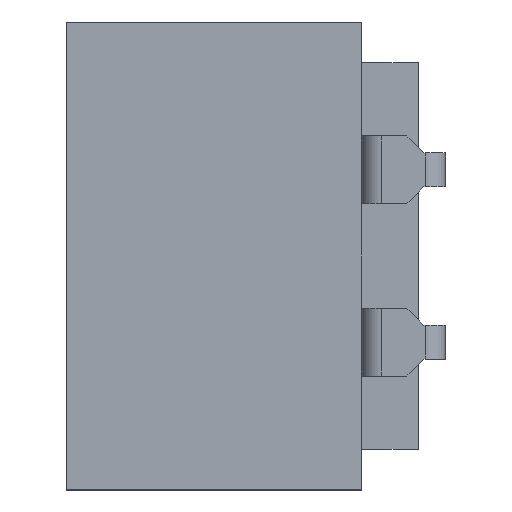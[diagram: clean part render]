
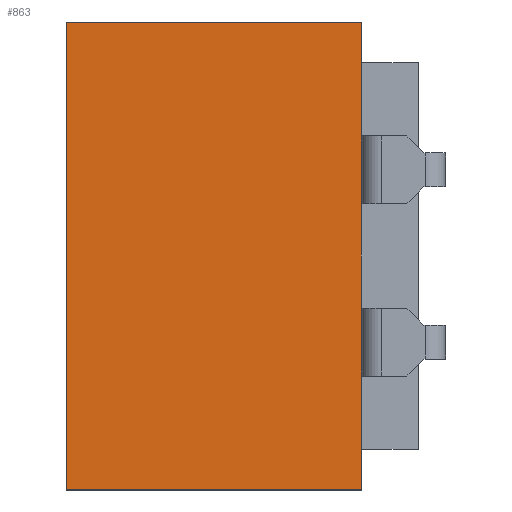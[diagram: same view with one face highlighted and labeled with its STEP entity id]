
A CAD part, left-side view. The second image highlights one B-rep face of the part: STEP entity #863.
In plain terms, the highlighted planar face has unit normal (-1, 0, 0).
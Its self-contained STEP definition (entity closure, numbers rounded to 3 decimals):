
#73 = EDGE_CURVE ( 'NONE', #74, #120, #2155, .T. ) ;
#74 = VERTEX_POINT ( 'NONE', #2151 ) ;
#120 = VERTEX_POINT ( 'NONE', #2290 ) ;
#212 = VERTEX_POINT ( 'NONE', #2456 ) ;
#214 = EDGE_CURVE ( 'NONE', #215, #212, #2455, .T. ) ;
#215 = VERTEX_POINT ( 'NONE', #2451 ) ;
#396 = EDGE_CURVE ( 'NONE', #397, #398, #2986, .T. ) ;
#397 = VERTEX_POINT ( 'NONE', #2982 ) ;
#398 = VERTEX_POINT ( 'NONE', #2981 ) ;
#658 = EDGE_CURVE ( 'NONE', #120, #3711, #3869, .T. ) ;
#761 = ORIENTED_EDGE ( 'NONE', *, *, #73, .T. ) ;
#762 = ORIENTED_EDGE ( 'NONE', *, *, #658, .T. ) ;
#763 = ORIENTED_EDGE ( 'NONE', *, *, #3720, .T. ) ;
#764 = ORIENTED_EDGE ( 'NONE', *, *, #765, .T. ) ;
#765 = EDGE_CURVE ( 'NONE', #3718, #215, #4108, .T. ) ;
#793 = EDGE_CURVE ( 'NONE', #74, #397, #4154, .T. ) ;
#861 = ORIENTED_EDGE ( 'NONE', *, *, #214, .T. ) ;
#863 = ADVANCED_FACE ( 'NONE', ( #4376 ), #4426, .T. ) ;
#864 = EDGE_LOOP ( 'NONE', ( #865, #761, #762, #763, #764, #861, #908, #909 ) ) ;
#865 = ORIENTED_EDGE ( 'NONE', *, *, #793, .F. ) ;
#872 = EDGE_CURVE ( 'NONE', #212, #398, #4371, .T. ) ;
#908 = ORIENTED_EDGE ( 'NONE', *, *, #872, .T. ) ;
#909 = ORIENTED_EDGE ( 'NONE', *, *, #396, .F. ) ;
#2151 = CARTESIAN_POINT ( 'NONE',  ( -3.685, 1.24, -3.45 ) ) ;
#2152 = DIRECTION ( 'NONE',  ( 0., 0., 1. ) ) ;
#2153 = VECTOR ( 'NONE', #2152, 1000. ) ;
#2154 = CARTESIAN_POINT ( 'NONE',  ( -3.685, 1.24, -3.45 ) ) ;
#2155 = LINE ( 'NONE', #2154, #2153 ) ;
#2290 = CARTESIAN_POINT ( 'NONE',  ( -3.685, 1.24, -1.77 ) ) ;
#2451 = CARTESIAN_POINT ( 'NONE',  ( -3.685, 1.24, 1.77 ) ) ;
#2452 = DIRECTION ( 'NONE',  ( 0., 0., 1. ) ) ;
#2453 = VECTOR ( 'NONE', #2452, 1000. ) ;
#2454 = CARTESIAN_POINT ( 'NONE',  ( -3.685, 1.24, -3.45 ) ) ;
#2455 = LINE ( 'NONE', #2454, #2453 ) ;
#2456 = CARTESIAN_POINT ( 'NONE',  ( -3.685, 1.24, 3.45 ) ) ;
#2981 = CARTESIAN_POINT ( 'NONE',  ( -3.685, 5.59, 3.45 ) ) ;
#2982 = CARTESIAN_POINT ( 'NONE',  ( -3.685, 5.59, -3.45 ) ) ;
#2983 = DIRECTION ( 'NONE',  ( 0., 0., 1. ) ) ;
#2984 = VECTOR ( 'NONE', #2983, 1000. ) ;
#2985 = CARTESIAN_POINT ( 'NONE',  ( -3.685, 5.59, -3.45 ) ) ;
#2986 = LINE ( 'NONE', #2985, #2984 ) ;
#3711 = VERTEX_POINT ( 'NONE', #9106 ) ;
#3718 = VERTEX_POINT ( 'NONE', #9095 ) ;
#3720 = EDGE_CURVE ( 'NONE', #3711, #3718, #9093, .T. ) ;
#3866 = DIRECTION ( 'NONE',  ( 0., 0., 1. ) ) ;
#3867 = VECTOR ( 'NONE', #3866, 1000. ) ;
#3868 = CARTESIAN_POINT ( 'NONE',  ( -3.685, 1.24, -3.45 ) ) ;
#3869 = LINE ( 'NONE', #3868, #3867 ) ;
#4105 = DIRECTION ( 'NONE',  ( 0., 0., 1. ) ) ;
#4106 = VECTOR ( 'NONE', #4105, 1000. ) ;
#4107 = CARTESIAN_POINT ( 'NONE',  ( -3.685, 1.24, -3.45 ) ) ;
#4108 = LINE ( 'NONE', #4107, #4106 ) ;
#4151 = DIRECTION ( 'NONE',  ( 0., 1., 0. ) ) ;
#4152 = VECTOR ( 'NONE', #4151, 1000. ) ;
#4153 = CARTESIAN_POINT ( 'NONE',  ( -3.685, -8.856, -3.45 ) ) ;
#4154 = LINE ( 'NONE', #4153, #4152 ) ;
#4331 = DIRECTION ( 'NONE',  ( 0., 0., 1. ) ) ;
#4332 = DIRECTION ( 'NONE',  ( -1., 0., 0. ) ) ;
#4368 = DIRECTION ( 'NONE',  ( 0., 1., 0. ) ) ;
#4369 = VECTOR ( 'NONE', #4368, 1000. ) ;
#4370 = CARTESIAN_POINT ( 'NONE',  ( -3.685, -8.856, 3.45 ) ) ;
#4371 = LINE ( 'NONE', #4370, #4369 ) ;
#4376 = FACE_OUTER_BOUND ( 'NONE', #864, .T. ) ;
#4424 = CARTESIAN_POINT ( 'NONE',  ( -3.685, -8.856, -3.45 ) ) ;
#4425 = AXIS2_PLACEMENT_3D ( 'NONE', #4424, #4332, #4331 ) ;
#4426 = PLANE ( 'NONE',  #4425 ) ;
#9090 = DIRECTION ( 'NONE',  ( 0., 0., 1. ) ) ;
#9091 = VECTOR ( 'NONE', #9090, 1000. ) ;
#9092 = CARTESIAN_POINT ( 'NONE',  ( -3.685, 1.24, -3.45 ) ) ;
#9093 = LINE ( 'NONE', #9092, #9091 ) ;
#9095 = CARTESIAN_POINT ( 'NONE',  ( -3.685, 1.24, 0.77 ) ) ;
#9106 = CARTESIAN_POINT ( 'NONE',  ( -3.685, 1.24, -0.77 ) ) ;
